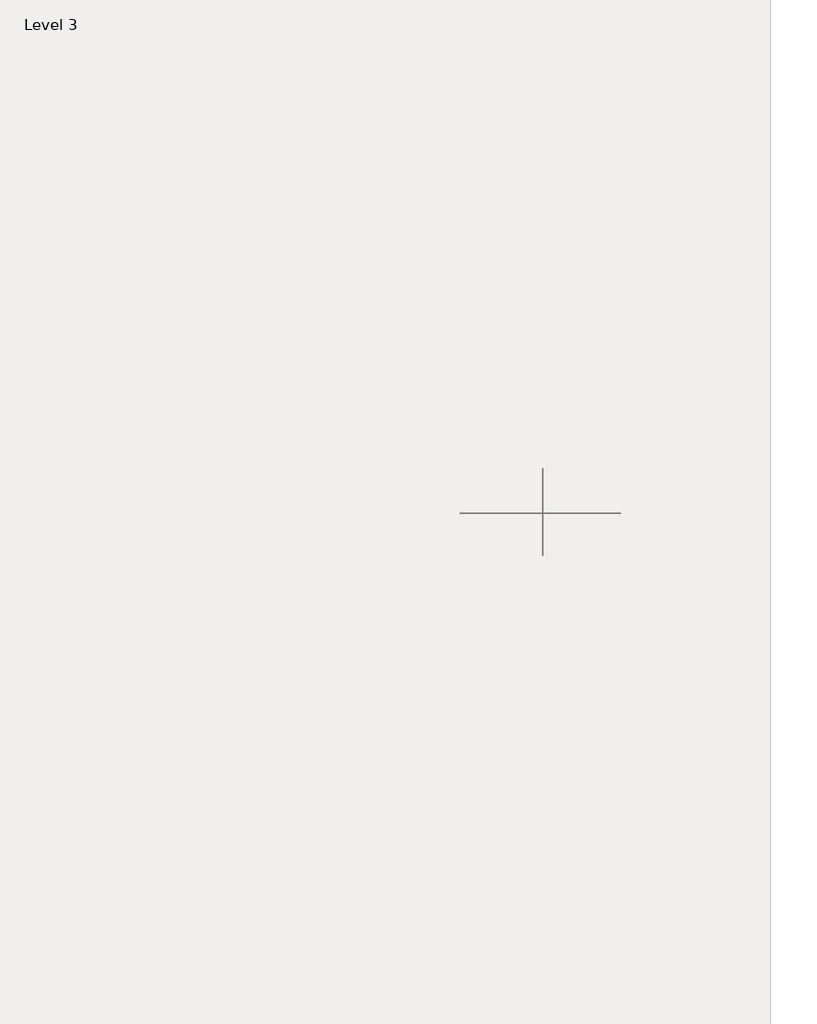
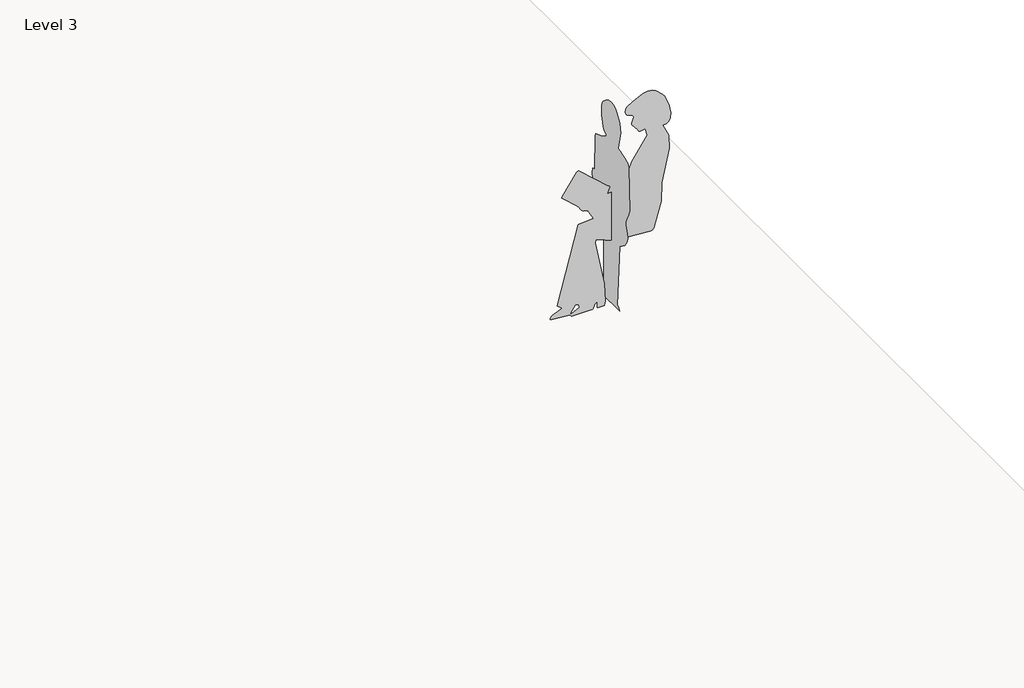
# One storey, part 4 of 4: 1 proxy.
"""IFC4 building model written with IfcOpenShell, lengths in millimetres."""

from ifc_helpers import new_model, si_unit, origin, place, context, project, spatial, transform, mapped, element, save
from components import rpc_female_d179ddfe

model = new_model("IFC4")

# Units and contexts
model_context = context("Model", 3, world=origin())
ifc_project = project(units=[si_unit("LENGTHUNIT", "METRE", prefix="MILLI")], contexts=[model_context])

# Site, building, storey
site = spatial("IfcSite", under=ifc_project)
building = spatial("IfcBuilding", under=site)
storey = spatial("IfcBuildingStorey", under=building, Name="Level 3", Elevation=7315.2)

# Proxy
placement = place(None, origin())
rpc_female_shape = rpc_female_d179ddfe(model_context)
element("IfcBuildingElementProxy", 1, Name="RPC Female : Cynthia", ObjectType="RPC Female : Cynthia", at=placement, inside=storey, context=model_context, shape_type="MappedRepresentation", body=[
    mapped(rpc_female_shape, transform((16668.2038471, -2327.360924, 7315.2), x_axis=(0.0, -1.0, 0.0), y_axis=(1.0, 0.0, 0.0), z_axis=(0.0, 0.0, 1.0))),
])

save(model, "model.ifc")
